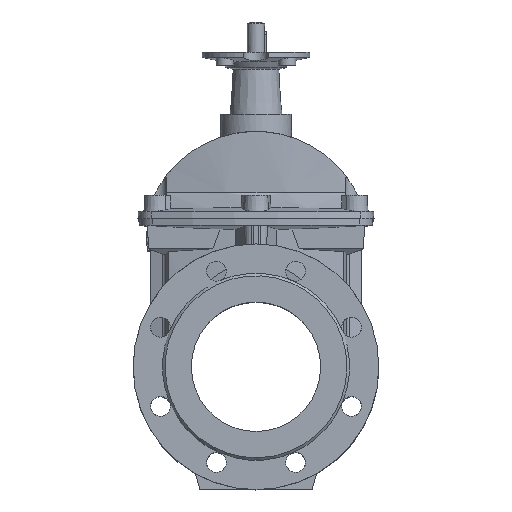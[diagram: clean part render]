
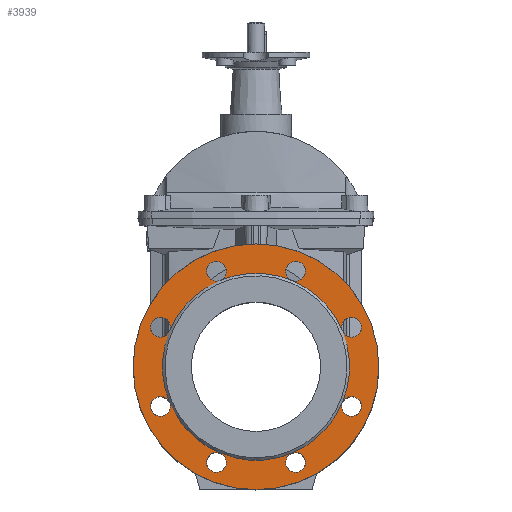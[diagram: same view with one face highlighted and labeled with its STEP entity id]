
A CAD part, top view. The second image highlights one B-rep face of the part: STEP entity #3939.
In plain terms, the highlighted planar face has unit normal (0, 0, 1).
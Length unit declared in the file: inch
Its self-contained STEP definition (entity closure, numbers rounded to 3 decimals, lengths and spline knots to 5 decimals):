
#325 = EDGE_CURVE ( 'NONE', #6743, #6743, #10547, .T. ) ;
#722 = CARTESIAN_POINT ( 'NONE',  ( 1.80795, 4.36479, 4.01575 ) ) ;
#723 = DIRECTION ( 'NONE',  ( 0., 0., -1. ) ) ;
#724 = DIRECTION ( 'NONE',  ( -1., 0., 0. ) ) ;
#725 = CARTESIAN_POINT ( 'NONE',  ( 0., 0., 4.01575 ) ) ;
#726 = DIRECTION ( 'NONE',  ( 0., 0., 1. ) ) ;
#727 = DIRECTION ( 'NONE',  ( 1., 0., 0. ) ) ;
#728 = CARTESIAN_POINT ( 'NONE',  ( -1.80795, 4.36479, 4.01575 ) ) ;
#729 = DIRECTION ( 'NONE',  ( 0., 0., 1. ) ) ;
#730 = DIRECTION ( 'NONE',  ( 1., 0., 0. ) ) ;
#731 = CARTESIAN_POINT ( 'NONE',  ( -4.36479, -1.80795, 4.01575 ) ) ;
#732 = DIRECTION ( 'NONE',  ( 0., 0., 1. ) ) ;
#733 = DIRECTION ( 'NONE',  ( 1., 0., 0. ) ) ;
#734 = CARTESIAN_POINT ( 'NONE',  ( 4.36479, 1.80795, 4.01575 ) ) ;
#735 = DIRECTION ( 'NONE',  ( 0., 0., -1. ) ) ;
#736 = DIRECTION ( 'NONE',  ( -1., 0., 0. ) ) ;
#737 = CARTESIAN_POINT ( 'NONE',  ( 0., 0., 4.01575 ) ) ;
#738 = DIRECTION ( 'NONE',  ( 0., 0., 1. ) ) ;
#739 = DIRECTION ( 'NONE',  ( 1., 0., 0. ) ) ;
#741 = CARTESIAN_POINT ( 'NONE',  ( 0., 0., 4.01575 ) ) ;
#742 = DIRECTION ( 'NONE',  ( 0., 0., 1. ) ) ;
#743 = DIRECTION ( 'NONE',  ( 1., 0., 0. ) ) ;
#744 = CARTESIAN_POINT ( 'NONE',  ( 0., 0., 4.01575 ) ) ;
#745 = DIRECTION ( 'NONE',  ( 0., 0., 1. ) ) ;
#746 = DIRECTION ( 'NONE',  ( 1., 0., 0. ) ) ;
#748 = CARTESIAN_POINT ( 'NONE',  ( -4.36479, 1.80795, 4.01575 ) ) ;
#749 = DIRECTION ( 'NONE',  ( 0., 0., 1. ) ) ;
#750 = DIRECTION ( 'NONE',  ( 1., 0., 0. ) ) ;
#753 = CARTESIAN_POINT ( 'NONE',  ( 0., 0., 4.01575 ) ) ;
#754 = DIRECTION ( 'NONE',  ( 0., 0., 1. ) ) ;
#755 = DIRECTION ( 'NONE',  ( 1., 0., 0. ) ) ;
#769 = CARTESIAN_POINT ( 'NONE',  ( 4.36479, -1.80795, 4.01575 ) ) ;
#770 = DIRECTION ( 'NONE',  ( 0., 0., -1. ) ) ;
#771 = DIRECTION ( 'NONE',  ( -1., 0., 0. ) ) ;
#1060 = CARTESIAN_POINT ( 'NONE',  ( -3.94649, -1.63469, 4.01575 ) ) ;
#1061 = CARTESIAN_POINT ( 'NONE',  ( 3.94649, -1.63469, 4.01575 ) ) ;
#1062 = CARTESIAN_POINT ( 'NONE',  ( 1.63469, -3.94649, 4.01575 ) ) ;
#1063 = CARTESIAN_POINT ( 'NONE',  ( -1.63469, -3.94649, 4.01575 ) ) ;
#1064 = CARTESIAN_POINT ( 'NONE',  ( -3.94649, 1.63469, 4.01575 ) ) ;
#1065 = CARTESIAN_POINT ( 'NONE',  ( -1.63469, 3.94649, 4.01575 ) ) ;
#1066 = CARTESIAN_POINT ( 'NONE',  ( 1.63469, 3.94649, 4.01575 ) ) ;
#1067 = CARTESIAN_POINT ( 'NONE',  ( 3.94649, 1.63469, 4.01575 ) ) ;
#1934 = CARTESIAN_POINT ( 'NONE',  ( 0., 0., 4.01575 ) ) ;
#1935 = DIRECTION ( 'NONE',  ( 0., 0., 1. ) ) ;
#1936 = DIRECTION ( 'NONE',  ( 1., 0., 0. ) ) ;
#2159 = ORIENTED_EDGE ( 'NONE', *, *, #6051, .F. ) ;
#2160 = ORIENTED_EDGE ( 'NONE', *, *, #6050, .F. ) ;
#2162 = ORIENTED_EDGE ( 'NONE', *, *, #6046, .F. ) ;
#2164 = ORIENTED_EDGE ( 'NONE', *, *, #6044, .T. ) ;
#2168 = ORIENTED_EDGE ( 'NONE', *, *, #6061, .T. ) ;
#2171 = ORIENTED_EDGE ( 'NONE', *, *, #6048, .T. ) ;
#2172 = ORIENTED_EDGE ( 'NONE', *, *, #6053, .F. ) ;
#2173 = ORIENTED_EDGE ( 'NONE', *, *, #6049, .F. ) ;
#2943 = CARTESIAN_POINT ( 'NONE',  ( 0., 4.27165, 4.01575 ) ) ;
#2946 = PLANE ( 'NONE',  #4741 ) ;
#2948 = DIRECTION ( 'NONE',  ( 0., 0., 1. ) ) ;
#2949 = DIRECTION ( 'NONE',  ( 1., 0., 0. ) ) ;
#3383 = FACE_OUTER_BOUND ( 'NONE', #4577, .T. ) ;
#3386 = FACE_BOUND ( 'NONE', #4302, .T. ) ;
#3554 = CIRCLE ( 'NONE', #4811, 4.27165 ) ;
#3558 = CIRCLE ( 'NONE', #4812, 0.45276 ) ;
#3559 = CIRCLE ( 'NONE', #4805, 4.27165 ) ;
#3560 = CIRCLE ( 'NONE', #4810, 4.27165 ) ;
#3561 = CIRCLE ( 'NONE', #4809, 4.27165 ) ;
#3562 = CIRCLE ( 'NONE', #4806, 0.45276 ) ;
#3563 = CIRCLE ( 'NONE', #4813, 4.27165 ) ;
#3564 = CIRCLE ( 'NONE', #4808, 0.45276 ) ;
#3565 = CIRCLE ( 'NONE', #4807, 0.45276 ) ;
#3566 = CIRCLE ( 'NONE', #4804, 0.45276 ) ;
#3581 = CIRCLE ( 'NONE', #4814, 0.45276 ) ;
#3939 = ADVANCED_FACE ( 'NONE', ( #3383, #3386 ), #2946, .T. ) ;
#4089 = ORIENTED_EDGE ( 'NONE', *, *, #9571, .F. ) ;
#4094 = ORIENTED_EDGE ( 'NONE', *, *, #6052, .F. ) ;
#4095 = ORIENTED_EDGE ( 'NONE', *, *, #325, .T. ) ;
#4096 = ORIENTED_EDGE ( 'NONE', *, *, #6047, .F. ) ;
#4097 = ORIENTED_EDGE ( 'NONE', *, *, #9570, .F. ) ;
#4098 = ORIENTED_EDGE ( 'NONE', *, *, #9566, .F. ) ;
#4099 = ORIENTED_EDGE ( 'NONE', *, *, #9569, .T. ) ;
#4102 = ORIENTED_EDGE ( 'NONE', *, *, #9573, .F. ) ;
#4104 = ORIENTED_EDGE ( 'NONE', *, *, #6045, .F. ) ;
#4302 = EDGE_LOOP ( 'NONE', ( #4102, #4099, #4097, #4089, #4098, #4096, #4104, #4094, #2159, #2162, #2160, #2164, #2172, #2171, #2173, #2168 ) ) ;
#4577 = EDGE_LOOP ( 'NONE', ( #4095 ) ) ;
#4741 = AXIS2_PLACEMENT_3D ( 'NONE', #2943, #2948, #2949 ) ;
#4804 = AXIS2_PLACEMENT_3D ( 'NONE', #722, #723, #724 ) ;
#4805 = AXIS2_PLACEMENT_3D ( 'NONE', #725, #726, #727 ) ;
#4806 = AXIS2_PLACEMENT_3D ( 'NONE', #728, #729, #730 ) ;
#4807 = AXIS2_PLACEMENT_3D ( 'NONE', #731, #732, #733 ) ;
#4808 = AXIS2_PLACEMENT_3D ( 'NONE', #734, #735, #736 ) ;
#4809 = AXIS2_PLACEMENT_3D ( 'NONE', #737, #738, #739 ) ;
#4810 = AXIS2_PLACEMENT_3D ( 'NONE', #741, #742, #743 ) ;
#4811 = AXIS2_PLACEMENT_3D ( 'NONE', #744, #745, #746 ) ;
#4812 = AXIS2_PLACEMENT_3D ( 'NONE', #748, #749, #750 ) ;
#4813 = AXIS2_PLACEMENT_3D ( 'NONE', #753, #754, #755 ) ;
#4814 = AXIS2_PLACEMENT_3D ( 'NONE', #769, #770, #771 ) ;
#4881 = AXIS2_PLACEMENT_3D ( 'NONE', #5891, #5892, #5893 ) ;
#4883 = AXIS2_PLACEMENT_3D ( 'NONE', #5898, #5899, #5900 ) ;
#4884 = AXIS2_PLACEMENT_3D ( 'NONE', #5901, #5902, #5903 ) ;
#4885 = AXIS2_PLACEMENT_3D ( 'NONE', #5904, #5905, #5906 ) ;
#4887 = AXIS2_PLACEMENT_3D ( 'NONE', #5911, #5912, #5913 ) ;
#5891 = CARTESIAN_POINT ( 'NONE',  ( 0., 0., 4.01575 ) ) ;
#5892 = DIRECTION ( 'NONE',  ( 0., 0., 1. ) ) ;
#5893 = DIRECTION ( 'NONE',  ( 1., 0., 0. ) ) ;
#5898 = CARTESIAN_POINT ( 'NONE',  ( 1.80795, -4.36479, 4.01575 ) ) ;
#5899 = DIRECTION ( 'NONE',  ( 0., 0., -1. ) ) ;
#5900 = DIRECTION ( 'NONE',  ( -1., 0., 0. ) ) ;
#5901 = CARTESIAN_POINT ( 'NONE',  ( 0., 0., 4.01575 ) ) ;
#5902 = DIRECTION ( 'NONE',  ( 0., 0., 1. ) ) ;
#5903 = DIRECTION ( 'NONE',  ( 1., 0., 0. ) ) ;
#5904 = CARTESIAN_POINT ( 'NONE',  ( -1.80795, -4.36479, 4.01575 ) ) ;
#5905 = DIRECTION ( 'NONE',  ( 0., 0., 1. ) ) ;
#5906 = DIRECTION ( 'NONE',  ( 1., 0., 0. ) ) ;
#5911 = CARTESIAN_POINT ( 'NONE',  ( 0., 0., 4.01575 ) ) ;
#5912 = DIRECTION ( 'NONE',  ( 0., 0., 1. ) ) ;
#5913 = DIRECTION ( 'NONE',  ( 1., 0., 0. ) ) ;
#6044 = EDGE_CURVE ( 'NONE', #9010, #9010, #3566, .T. ) ;
#6045 = EDGE_CURVE ( 'NONE', #9008, #9004, #3559, .T. ) ;
#6046 = EDGE_CURVE ( 'NONE', #9009, #9009, #3562, .T. ) ;
#6047 = EDGE_CURVE ( 'NONE', #9004, #9004, #3565, .T. ) ;
#6048 = EDGE_CURVE ( 'NONE', #9011, #9011, #3564, .T. ) ;
#6049 = EDGE_CURVE ( 'NONE', #9005, #9011, #3561, .T. ) ;
#6050 = EDGE_CURVE ( 'NONE', #9010, #9009, #3560, .T. ) ;
#6051 = EDGE_CURVE ( 'NONE', #9009, #9008, #3554, .T. ) ;
#6052 = EDGE_CURVE ( 'NONE', #9008, #9008, #3558, .T. ) ;
#6053 = EDGE_CURVE ( 'NONE', #9011, #9010, #3563, .T. ) ;
#6061 = EDGE_CURVE ( 'NONE', #9005, #9005, #3581, .T. ) ;
#6157 = CIRCLE ( 'NONE', #4883, 0.45276 ) ;
#6161 = CIRCLE ( 'NONE', #4881, 4.27165 ) ;
#6163 = CIRCLE ( 'NONE', #4885, 0.45276 ) ;
#6165 = CIRCLE ( 'NONE', #4884, 4.27165 ) ;
#6169 = CIRCLE ( 'NONE', #4887, 4.27165 ) ;
#6743 = VERTEX_POINT ( 'NONE', #8826 ) ;
#8826 = CARTESIAN_POINT ( 'NONE',  ( 5.61024, 0., 4.01575 ) ) ;
#9004 = VERTEX_POINT ( 'NONE', #1060 ) ;
#9005 = VERTEX_POINT ( 'NONE', #1061 ) ;
#9006 = VERTEX_POINT ( 'NONE', #1062 ) ;
#9007 = VERTEX_POINT ( 'NONE', #1063 ) ;
#9008 = VERTEX_POINT ( 'NONE', #1064 ) ;
#9009 = VERTEX_POINT ( 'NONE', #1065 ) ;
#9010 = VERTEX_POINT ( 'NONE', #1066 ) ;
#9011 = VERTEX_POINT ( 'NONE', #1067 ) ;
#9566 = EDGE_CURVE ( 'NONE', #9004, #9007, #6161, .T. ) ;
#9569 = EDGE_CURVE ( 'NONE', #9006, #9006, #6157, .T. ) ;
#9570 = EDGE_CURVE ( 'NONE', #9007, #9006, #6165, .T. ) ;
#9571 = EDGE_CURVE ( 'NONE', #9007, #9007, #6163, .T. ) ;
#9573 = EDGE_CURVE ( 'NONE', #9006, #9005, #6169, .T. ) ;
#10547 = CIRCLE ( 'NONE', #11185, 5.61024 ) ;
#11185 = AXIS2_PLACEMENT_3D ( 'NONE', #1934, #1935, #1936 ) ;
